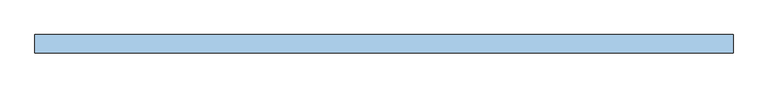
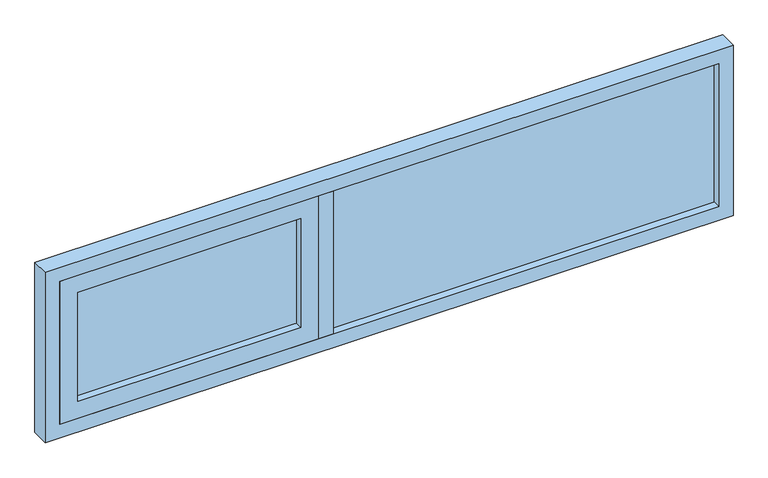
"""IFC4 building model written with IfcOpenShell, lengths in millimetres: window geometry, VENT_ALUM_PROY_LATERAL : VD-5 / PROYECC LATERAL LAVADO 1.91 X 0.5."""

import ifcopenshell
import ifcopenshell.guid

model = None  # the IFC model being written
_history = None  # IfcOwnerHistory: only IFC2X3 demands one
_inside = {}  # id of a spatial element -> (the spatial element, [elements in it])
_under = {}  # id of a project, library or spatial element -> (it, [spatial elements below it])
_declared = {}  # id of a project -> (the project, [libraries it declares])
_typed = {}  # id of a type object -> (the type object, [elements of that type])
_made_of = {}  # id of a material, layer set ... -> (it, [elements and type objects made of it])


def new_model(schema):
    """Start an empty IFC model of exactly this schema.

    Asked for "IFC4X3", IfcOpenShell would pick the latest addendum, in which some entities
    have other attributes; the version numbers below select the first issue.
    IFC2X3 requires an IfcOwnerHistory on every rooted entity: one is made here for all.
    """
    global model, _history
    if schema == "IFC4X3":
        model = ifcopenshell.file(schema_version=(4, 3, 0, 0))
    else:
        model = ifcopenshell.file(schema=schema)
    _inside.clear()
    _under.clear()
    _declared.clear()
    _typed.clear()
    _made_of.clear()
    _history = None
    if model.schema == "IFC2X3":
        org = make("IfcOrganization", Name="unknown")
        user = make(
            "IfcPersonAndOrganization",
            ThePerson=make("IfcPerson", FamilyName="unknown"),
            TheOrganization=org,
        )
        app = make(
            "IfcApplication",
            ApplicationDeveloper=org,
            Version="unknown",
            ApplicationFullName="unknown",
            ApplicationIdentifier="unknown",
        )
        _history = make(
            "IfcOwnerHistory",
            OwningUser=user,
            OwningApplication=app,
            ChangeAction="ADDED",
            CreationDate=0,
        )
    return model


def make(cls, **values):
    """One entity of the class cls with the attributes given. An attribute that is None is left unset."""
    return model.create_entity(
        cls, **{name: value for name, value in values.items() if value is not None}
    )


def rooted(cls, **values):
    """An entity with a GlobalId (a new one), such as an element, a storey or a relation."""
    return make(cls, GlobalId=ifcopenshell.guid.new(), OwnerHistory=_history, **values)


def si_unit(unit_type, name, prefix=None):
    """IfcSIUnit, for example si_unit("LENGTHUNIT", "METRE", prefix="MILLI")."""
    return make("IfcSIUnit", UnitType=unit_type, Prefix=prefix, Name=name)


def assignment(units):
    """IfcUnitAssignment: the units of a project."""
    return None if units is None else make("IfcUnitAssignment", Units=units)


def point(xyz):
    """IfcCartesianPoint."""
    return None if xyz is None else make("IfcCartesianPoint", Coordinates=xyz)


def direction(xyz):
    """IfcDirection."""
    return None if xyz is None else make("IfcDirection", DirectionRatios=xyz)


def frame(location, z_axis=None, x_axis=None):
    """IfcAxis2Placement3D, a coordinate frame: its origin and axes. An axis left out is left unset."""
    return make(
        "IfcAxis2Placement3D",
        Location=point(location),
        Axis=direction(z_axis),
        RefDirection=direction(x_axis),
    )


def origin():
    """The frame at (0, 0, 0) with its axes left unset."""
    return frame((0.0, 0.0, 0.0))


def place(relative_to, where):
    """IfcLocalPlacement: puts the frame where relative to a parent placement (None: the world)."""
    return make(
        "IfcLocalPlacement", PlacementRelTo=relative_to, RelativePlacement=where
    )


def context(
    kind, dimensions, precision=None, world=None, true_north=None, identifier=None
):
    """IfcGeometricRepresentationContext, for example the 3D "Model" context."""
    return make(
        "IfcGeometricRepresentationContext",
        ContextIdentifier=identifier,
        ContextType=kind,
        CoordinateSpaceDimension=dimensions,
        Precision=precision,
        WorldCoordinateSystem=world,
        TrueNorth=true_north,
    )


def project(units=None, contexts=None):
    """IfcProject with its units and contexts."""
    return rooted(
        "IfcProject",
        Name="project",
        RepresentationContexts=contexts,
        UnitsInContext=assignment(units),
    )


def spatial(cls, under=None, at=None, **own):
    """A site, building, storey or space (cls), placed at a placement, below another one or the project."""
    s = rooted(cls, ObjectPlacement=at, **own)
    if under is not None:
        _under.setdefault(under.id(), (under, []))[1].append(s)
    return s


def polyline(points):
    """IfcPolyline through the points."""
    return make("IfcPolyline", Points=[point(p) for p in points])


def outline(outer, holes=None, kind="AREA"):
    """IfcArbitraryClosedProfileDef: a profile drawn as a closed curve; with holes, ...WithVoids."""
    if holes is None:
        return make("IfcArbitraryClosedProfileDef", ProfileType=kind, OuterCurve=outer)
    return make(
        "IfcArbitraryProfileDefWithVoids",
        ProfileType=kind,
        OuterCurve=outer,
        InnerCurves=holes,
    )


def extrude(swept, where, along, depth):
    """IfcExtrudedAreaSolid: the profile swept, set in the frame where, extruded along a direction by depth."""
    return make(
        "IfcExtrudedAreaSolid",
        SweptArea=swept,
        Position=where,
        ExtrudedDirection=direction(along),
        Depth=depth,
    )


def shape(context_of_items, identifier, shape_type, items):
    """IfcShapeRepresentation: the items that make up one representation, for example the "Body"."""
    return make(
        "IfcShapeRepresentation",
        ContextOfItems=context_of_items,
        RepresentationIdentifier=identifier,
        RepresentationType=shape_type,
        Items=items,
    )


def source(mapping_origin, context_of_items, identifier, shape_type, items):
    """IfcRepresentationMap: a shape defined once, which mapped items show again and again."""
    return make(
        "IfcRepresentationMap",
        MappingOrigin=mapping_origin,
        MappedRepresentation=shape(context_of_items, identifier, shape_type, items),
    )


def transform(
    local_origin,
    x_axis=None,
    y_axis=None,
    z_axis=None,
    scale=None,
    scale2=None,
    scale3=None,
    uniform=True,
):
    """IfcCartesianTransformationOperator3D, or its non-uniform kind. x_axis, y_axis, z_axis: its Axis1, 2, 3."""
    if uniform:
        return make(
            "IfcCartesianTransformationOperator3D",
            Axis1=direction(x_axis),
            Axis2=direction(y_axis),
            LocalOrigin=point(local_origin),
            Scale=scale,
            Axis3=direction(z_axis),
        )
    return make(
        "IfcCartesianTransformationOperator3DnonUniform",
        Axis1=direction(x_axis),
        Axis2=direction(y_axis),
        LocalOrigin=point(local_origin),
        Scale=scale,
        Axis3=direction(z_axis),
        Scale2=scale2,
        Scale3=scale3,
    )


def mapped(mapping_source, mapping_target):
    """IfcMappedItem: shows the shape of a source again, moved by a transform."""
    return make(
        "IfcMappedItem", MappingSource=mapping_source, MappingTarget=mapping_target
    )


def made_of(thing, what):
    """Note that an element or type object is made of a material, layer set ...; save() writes the relation."""
    if what is not None:
        _made_of.setdefault(what.id(), (what, []))[1].append(thing)
    return thing


def element(
    cls,
    number,
    at=None,
    inside=None,
    cuts=None,
    type_object=None,
    material=None,
    context=None,
    identifier="Body",
    shape_type=None,
    held_by="IfcProductDefinitionShape",
    body=None,
    shapes=None,
    **own,
):
    """One element of the class cls, such as IfcWall. Its Tag is "e" and its number.

    at: its placement. inside: the storey or other place that contains it. cuts: it is an
    opening in that element (IfcRelVoidsElement). A single representation is given by context,
    identifier, shape_type and body (its items); several are given by shapes. held_by: the class
    of the entity that holds the representations. save() writes the other relations.
    """
    e = rooted(cls, Tag="e%d" % number, ObjectPlacement=at, **own)
    if body is not None:
        shapes = [shape(context, identifier, shape_type, body)]
    if shapes is not None:
        e.Representation = make(held_by, Representations=shapes)
    if inside is not None:
        _inside.setdefault(inside.id(), (inside, []))[1].append(e)
    if cuts is not None:
        rooted(
            "IfcRelVoidsElement", RelatingBuildingElement=cuts, RelatedOpeningElement=e
        )
    if type_object is not None:
        _typed.setdefault(type_object.id(), (type_object, []))[1].append(e)
    return made_of(e, material)


def aggregate(whole, parts):
    """IfcRelAggregates: a whole, such as a stair, and the parts it consists of."""
    return rooted("IfcRelAggregates", RelatingObject=whole, RelatedObjects=parts)


def save(model, path):
    """Write the relations noted so far, then the file.

    IfcRelAggregates (storeys below a building ...), IfcRelContainedInSpatialStructure (elements
    in a storey), IfcRelDefinesByType, IfcRelAssociatesMaterial and IfcRelDeclares: one each for
    every whole, place, type object, material and project.
    """
    for whole, parts in _under.values():
        aggregate(whole, parts)
    for where, things in _inside.values():
        rooted(
            "IfcRelContainedInSpatialStructure",
            RelatedElements=things,
            RelatingStructure=where,
        )
    for kind, things in _typed.values():
        rooted("IfcRelDefinesByType", RelatedObjects=things, RelatingType=kind)
    for what, things in _made_of.values():
        rooted("IfcRelAssociatesMaterial", RelatedObjects=things, RelatingMaterial=what)
    for by, libraries in _declared.values():
        rooted("IfcRelDeclares", RelatingContext=by, RelatedDefinitions=libraries)
    model.write(path)


def window_ee945850(model_context):
    return source(origin(), model_context, "Body", "SweptSolid", [
        extrude(outline(polyline([(1202.5, -3.0), (132.5, -3.0), (132.5, 3.0), (1202.5, 3.0), (1202.5, -3.0)])), frame((0.0, 0.0, 2040.0), z_axis=(0.0, 0.0, 1.0), x_axis=(1.0, 0.0, 0.0)), (0.0, 0.0, 1.0), 420.0),
        extrude(outline(polyline([(2000.0, -667.5), (2000.0, 1242.5), (2500.0, 1242.5), (2500.0, -667.5), (2000.0, -667.5)]), holes=[polyline([(2460.0, -627.5), (2460.0, 1202.5), (2040.0, 1202.5), (2040.0, -627.5), (2460.0, -627.5)])]), frame((0.0, -25.0, 0.0), z_axis=(0.0, 1.0, 0.0), x_axis=(0.0, 0.0, 1.0)), (0.0, 0.0, 1.0), 50.0),
        extrude(outline(polyline([(92.5, 25.0), (132.5, 25.0), (132.5, -25.0), (92.5, -25.0), (92.5, 25.0)])), frame((0.0, 0.0, 2040.0), z_axis=(0.0, 0.0, 1.0), x_axis=(1.0, 0.0, 0.0)), (0.0, 0.0, 1.0), 420.0),
        extrude(outline(polyline([(42.5, -3.0), (-577.5, -3.0), (-577.5, 3.0), (42.5, 3.0), (42.5, -3.0)])), frame((0.0, 0.0, 2080.0), z_axis=(0.0, 0.0, 1.0), x_axis=(1.0, 0.0, 0.0)), (0.0, 0.0, 1.0), 330.0),
        extrude(outline(polyline([(2040.0, -627.5), (2040.0, 92.5), (2460.0, 92.5), (2460.0, -627.5), (2040.0, -627.5)]), holes=[polyline([(2410.0, -577.5), (2410.0, 42.5), (2090.0, 42.5), (2090.0, -577.5), (2410.0, -577.5)])]), frame((0.0, -25.0, 0.0), z_axis=(0.0, 1.0, 0.0), x_axis=(0.0, 0.0, 1.0)), (0.0, 0.0, 1.0), 50.0),
    ])


if __name__ == "__main__":
    model = new_model("IFC4")
    model_context = context("Model", 3, world=origin())
    ifc_project = project(units=[si_unit("LENGTHUNIT", "METRE", prefix="MILLI")], contexts=[model_context])
    site = spatial("IfcSite", under=ifc_project)
    building = spatial("IfcBuilding", under=site)
    placement = place(None, origin())
    window_shape = window_ee945850(model_context)
    element("IfcWindow", 1, ObjectType="VENT_ALUM_PROY_LATERAL : VD-5 / PROYECC LATERAL LAVADO 1.91 X 0.5", at=placement, inside=building, context=model_context, shape_type="MappedRepresentation", body=[
        mapped(window_shape, transform((0.0, 0.0, 0.0), x_axis=(1.0, 0.0, 0.0), y_axis=(0.0, 1.0, 0.0), z_axis=(0.0, 0.0, 1.0))),
    ])
    save(model, "model.ifc")
